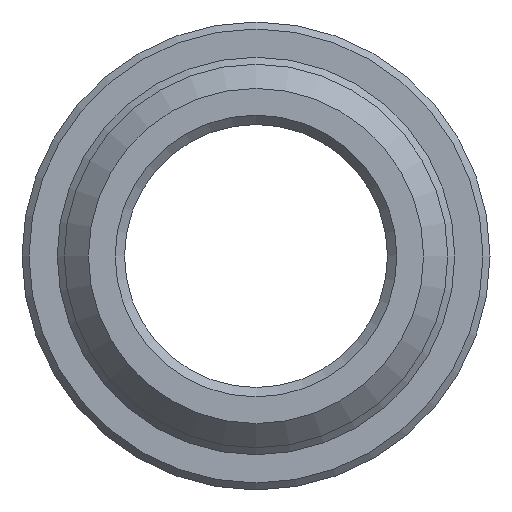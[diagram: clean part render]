
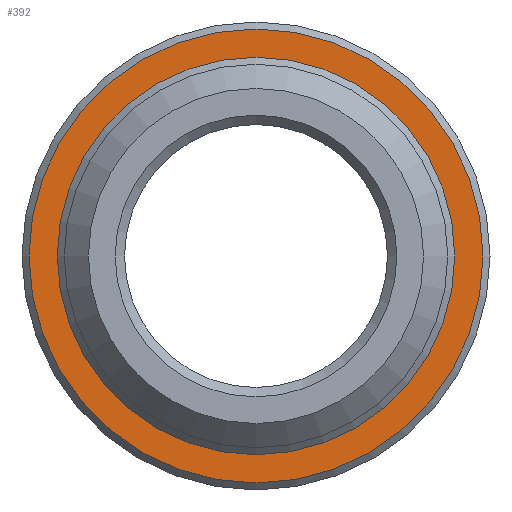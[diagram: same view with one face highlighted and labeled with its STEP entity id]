
A CAD part, front view. The second image highlights one B-rep face of the part: STEP entity #392.
In plain terms, the highlighted planar face has unit normal (0, -1, 0).
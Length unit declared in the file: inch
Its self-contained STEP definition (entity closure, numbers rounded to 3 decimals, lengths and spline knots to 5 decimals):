
#33=FACE_BOUND('',#86,.T.);
#44=PLANE('',#443);
#60=FACE_OUTER_BOUND('',#85,.T.);
#85=EDGE_LOOP('',(#316));
#86=EDGE_LOOP('',(#317));
#158=CIRCLE('',#442,0.4247);
#159=CIRCLE('',#444,0.485);
#195=VERTEX_POINT('',#678);
#196=VERTEX_POINT('',#682);
#243=EDGE_CURVE('',#195,#195,#158,.T.);
#244=EDGE_CURVE('',#196,#196,#159,.T.);
#316=ORIENTED_EDGE('',*,*,#244,.F.);
#317=ORIENTED_EDGE('',*,*,#243,.F.);
#392=ADVANCED_FACE('',(#60,#33),#44,.T.);
#442=AXIS2_PLACEMENT_3D('',#680,#536,#537);
#443=AXIS2_PLACEMENT_3D('',#681,#538,#539);
#444=AXIS2_PLACEMENT_3D('',#683,#540,#541);
#536=DIRECTION('center_axis',(0.,-1.,0.));
#537=DIRECTION('ref_axis',(0.,0.,-1.));
#538=DIRECTION('center_axis',(0.,-1.,0.));
#539=DIRECTION('ref_axis',(0.,0.,-1.));
#540=DIRECTION('center_axis',(0.,1.,0.));
#541=DIRECTION('ref_axis',(0.,0.,1.));
#678=CARTESIAN_POINT('',(0.,4.,0.4247));
#680=CARTESIAN_POINT('Origin',(0.,4.,0.));
#681=CARTESIAN_POINT('Origin',(0.,4.,-0.42));
#682=CARTESIAN_POINT('',(0.,4.,-0.485));
#683=CARTESIAN_POINT('Origin',(0.,4.,0.));
